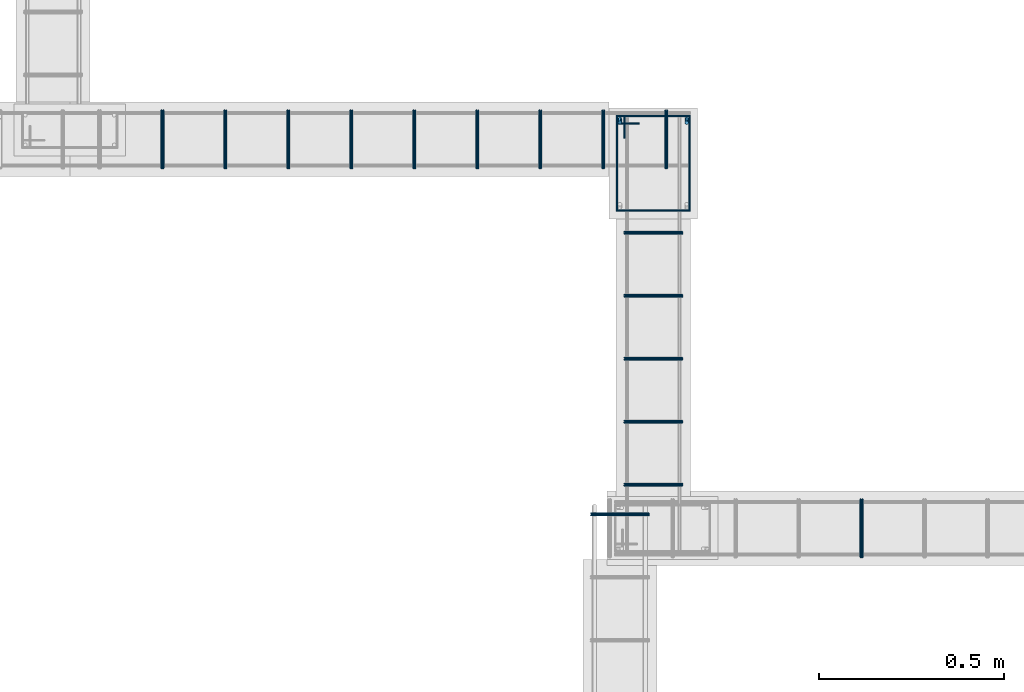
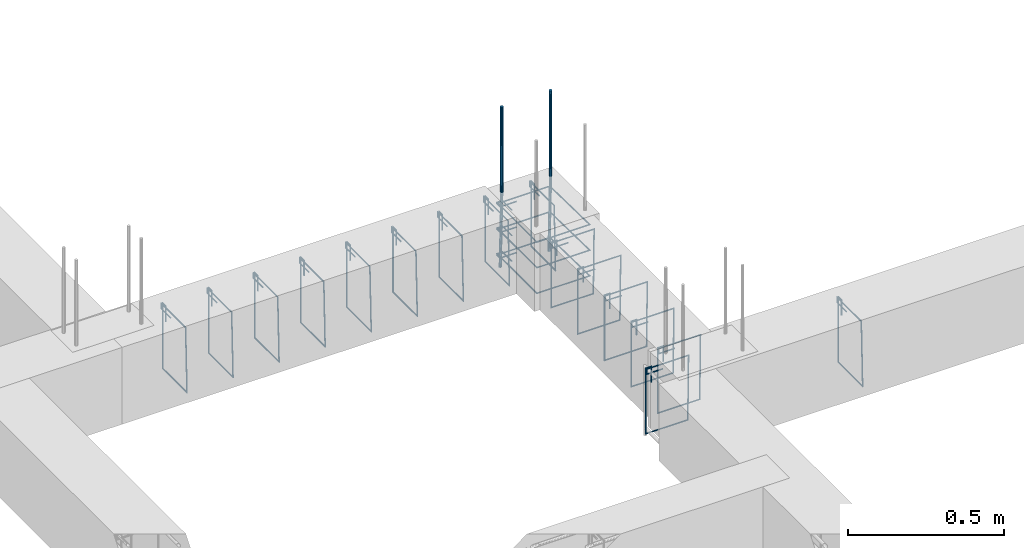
# One storey, part 78 of 150: 21 reinforcing bars.
"""IFC4 building model written with IfcOpenShell, lengths in centimetres."""

from ifc_helpers import new_model, entity, si_unit, derived_unit, frame, origin_with_axes, place, context, project, spatial, source, transform, mapped, element, save


model = new_model("IFC4")

# Units and contexts
model_context = context("Model", 3, precision=1e-05, world=origin_with_axes(), identifier="Body")
ifc_project = project(units=[si_unit("LENGTHUNIT", "METRE", prefix="CENTI"), si_unit("VOLUMEUNIT", "CUBIC_METRE"), si_unit("AREAUNIT", "SQUARE_METRE"), si_unit("POWERUNIT", "WATT"), si_unit("LUMINOUSFLUXUNIT", "LUMEN"), si_unit("ELECTRICCURRENTUNIT", "AMPERE"), si_unit("PRESSUREUNIT", "PASCAL", prefix="KILO"), si_unit("MASSUNIT", "GRAM", prefix="KILO"), si_unit("PLANEANGLEUNIT", "RADIAN"), derived_unit("VOLUMETRICFLOWRATEUNIT", [(si_unit("LENGTHUNIT", "METRE"), 3), (si_unit("TIMEUNIT", "SECOND"), -1)])], contexts=[model_context])

# Site, building, storey
site_placement = place(None, frame((-4000.0, 0.0, 0.0), z_axis=(0.0, 0.0, 1.0), x_axis=(1.0, 0.0, 0.0)))
site = spatial("IfcSite", under=ifc_project, at=site_placement, Name="PADRÃO")
building_placement = place(site_placement, frame((0.0, 0.0, -14.0)))
building = spatial("IfcBuilding", under=site, at=building_placement, Name="CRECHE PRÉ-ESCOLA TIPO 2")
placement = place(building_placement, origin_with_axes())
storey_placement = place(placement, frame((0.0, 0.0, 30.0), z_axis=(0.0, 0.0, 1.0), x_axis=(1.0, 0.0, 0.0)))
storey = spatial("IfcBuildingStorey", under=building, at=storey_placement, Name="VIGA BALDRAME", CompositionType="ELEMENT", Elevation=16.0)

# Reinforcing bars
shared_shape_1 = source(origin_with_axes(), model_context, "Body", "AdvancedSweptSolid", [
    entity("IfcSweptDiskSolid", entity("IfcCompositeCurve", [entity("IfcCompositeCurveSegment", "CONTINUOUS", True, entity("IfcPolyline", [entity("IfcCartesianPoint", [4.25, 21.75, 0.0]), entity("IfcCartesianPoint", [4.25, 27.75, 0.0])])), entity("IfcCompositeCurveSegment", "CONTINUOUS", True, entity("IfcPolyline", [entity("IfcCartesianPoint", [4.25, 27.75, 0.0]), entity("IfcCartesianPoint", [2.25, 27.75, 0.0])])), entity("IfcCompositeCurveSegment", "CONTINUOUS", True, entity("IfcPolyline", [entity("IfcCartesianPoint", [2.25, 27.75, 0.0]), entity("IfcCartesianPoint", [2.25, 2.25, 0.0])])), entity("IfcCompositeCurveSegment", "CONTINUOUS", True, entity("IfcPolyline", [entity("IfcCartesianPoint", [2.25, 2.25, 0.0]), entity("IfcCartesianPoint", [21.75, 2.25, 0.0])])), entity("IfcCompositeCurveSegment", "CONTINUOUS", True, entity("IfcPolyline", [entity("IfcCartesianPoint", [21.75, 2.25, 0.0]), entity("IfcCartesianPoint", [21.75, 27.75, -0.5])])), entity("IfcCompositeCurveSegment", "CONTINUOUS", True, entity("IfcPolyline", [entity("IfcCartesianPoint", [21.75, 27.75, -0.5]), entity("IfcCartesianPoint", [2.25, 27.75, -0.5])])), entity("IfcCompositeCurveSegment", "CONTINUOUS", True, entity("IfcPolyline", [entity("IfcCartesianPoint", [2.25, 27.75, -0.5]), entity("IfcCartesianPoint", [2.25, 25.75, -0.5])])), entity("IfcCompositeCurveSegment", "CONTINUOUS", True, entity("IfcPolyline", [entity("IfcCartesianPoint", [2.25, 25.75, -0.5]), entity("IfcCartesianPoint", [8.25, 25.75, -0.5])]))], False), 0.25),
])
for number, where, z_axis, x_axis, name in (
    (1, (3133.02, 1898.52, -25.0), (0.0, 0.0, 1.0), (1.0, 0.0, 0.0), "P92 - Estribo"),
    (2, (3133.02, 1898.52, -15.0), (0.0, 0.0, 1.0), (1.0, 0.0, 0.0), "P92 - Estribo"),
    (3, (3133.02, 1898.52, -5.0), (0.0, 0.0, 1.0), (1.0, 0.0, 0.0), "P92 - Estribo"),
):
    element("IfcReinforcingBar", number, at=place(storey_placement, frame(where, z_axis=z_axis, x_axis=x_axis)), inside=storey, Name=name, BarLength=0.0, CrossSectionArea=1.9634954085e-05, NominalDiameter=0.5, PredefinedType="MAIN", context=model_context, shape_type="MappedRepresentation", body=[
        mapped(shared_shape_1, transform((0.0, 0.0, 0.0), scale=1.0)),
    ])
shared_shape_2 = source(origin_with_axes(), model_context, "Body", "AdvancedSweptSolid", [
    entity("IfcSweptDiskSolid", entity("IfcCompositeCurve", [entity("IfcCompositeCurveSegment", "CONTINUOUS", True, entity("IfcPolyline", [entity("IfcCartesianPoint", [2.0, -6.0, 0.0]), entity("IfcCartesianPoint", [2.0, 0.0, 0.0])])), entity("IfcCompositeCurveSegment", "CONTINUOUS", True, entity("IfcPolyline", [entity("IfcCartesianPoint", [2.0, 0.0, 0.0]), entity("IfcCartesianPoint", [0.0, 0.0, 0.0])])), entity("IfcCompositeCurveSegment", "CONTINUOUS", True, entity("IfcPolyline", [entity("IfcCartesianPoint", [0.0, 0.0, 0.0]), entity("IfcCartesianPoint", [0.0, -25.5, 0.0])])), entity("IfcCompositeCurveSegment", "CONTINUOUS", True, entity("IfcPolyline", [entity("IfcCartesianPoint", [0.0, -25.5, 0.0]), entity("IfcCartesianPoint", [15.5, -25.5, 0.0])])), entity("IfcCompositeCurveSegment", "CONTINUOUS", True, entity("IfcPolyline", [entity("IfcCartesianPoint", [15.5, -25.5, 0.0]), entity("IfcCartesianPoint", [15.5, 0.0, 0.5])])), entity("IfcCompositeCurveSegment", "CONTINUOUS", True, entity("IfcPolyline", [entity("IfcCartesianPoint", [15.5, 0.0, 0.5]), entity("IfcCartesianPoint", [0.0, 0.0, 0.5])])), entity("IfcCompositeCurveSegment", "CONTINUOUS", True, entity("IfcPolyline", [entity("IfcCartesianPoint", [0.0, 0.0, 0.5]), entity("IfcCartesianPoint", [0.0, -2.0, 0.5])])), entity("IfcCompositeCurveSegment", "CONTINUOUS", True, entity("IfcPolyline", [entity("IfcCartesianPoint", [0.0, -2.0, 0.5]), entity("IfcCartesianPoint", [6.0, -2.0, 0.5])]))], False), 0.25),
])
reinforcing_bar_1_placement = place(storey_placement, frame((3201.5, 1822.77, -2.25), z_axis=(-1.0, 0.0, 0.0), x_axis=(0.0, -1.0, 0.0)))
element("IfcReinforcingBar", 4, at=reinforcing_bar_1_placement, inside=storey, Name="V131 - Estribo", BarLength=0.0, CrossSectionArea=1.9634954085e-05, NominalDiameter=0.5, PredefinedType="MAIN", context=model_context, shape_type="MappedRepresentation", body=[
    mapped(shared_shape_2, transform((0.0, 0.0, 0.0), scale=1.0)),
])
shared_shape_3 = source(origin_with_axes(), model_context, "Body", "AdvancedSweptSolid", [
    entity("IfcSweptDiskSolid", entity("IfcCompositeCurve", [entity("IfcCompositeCurveSegment", "CONTINUOUS", True, entity("IfcPolyline", [entity("IfcCartesianPoint", [2.0, -6.0, 0.0]), entity("IfcCartesianPoint", [2.0, 0.0, 0.0])])), entity("IfcCompositeCurveSegment", "CONTINUOUS", True, entity("IfcPolyline", [entity("IfcCartesianPoint", [2.0, 0.0, 0.0]), entity("IfcCartesianPoint", [0.0, 0.0, 0.0])])), entity("IfcCompositeCurveSegment", "CONTINUOUS", True, entity("IfcPolyline", [entity("IfcCartesianPoint", [0.0, 0.0, 0.0]), entity("IfcCartesianPoint", [0.0, -25.5, 0.0])])), entity("IfcCompositeCurveSegment", "CONTINUOUS", True, entity("IfcPolyline", [entity("IfcCartesianPoint", [0.0, -25.5, 0.0]), entity("IfcCartesianPoint", [15.5, -25.5, 0.0])])), entity("IfcCompositeCurveSegment", "CONTINUOUS", True, entity("IfcPolyline", [entity("IfcCartesianPoint", [15.5, -25.5, 0.0]), entity("IfcCartesianPoint", [15.5, 0.0, 0.5])])), entity("IfcCompositeCurveSegment", "CONTINUOUS", True, entity("IfcPolyline", [entity("IfcCartesianPoint", [15.5, 0.0, 0.5]), entity("IfcCartesianPoint", [0.0, 0.0, 0.5])])), entity("IfcCompositeCurveSegment", "CONTINUOUS", True, entity("IfcPolyline", [entity("IfcCartesianPoint", [0.0, 0.0, 0.5]), entity("IfcCartesianPoint", [0.0, -2.0, 0.5])])), entity("IfcCompositeCurveSegment", "CONTINUOUS", True, entity("IfcPolyline", [entity("IfcCartesianPoint", [0.0, -2.0, 0.5]), entity("IfcCartesianPoint", [6.0, -2.0, 0.5])]))], False), 0.25),
])
for number, where, z_axis, x_axis, name in (
    (5, (3137.27, 1827.02, -2.25), (0.0, -1.0, 0.0), (1.0, 0.0, 0.0), "V217 - Estribo"),
    (6, (3137.27, 1844.02, -2.25), (0.0, -1.0, 0.0), (1.0, 0.0, 0.0), "V217 - Estribo"),
    (7, (3137.27, 1861.02, -2.25), (0.0, -1.0, 0.0), (1.0, 0.0, 0.0), "V217 - Estribo"),
    (8, (3137.27, 1878.02, -2.25), (0.0, -1.0, 0.0), (1.0, 0.0, 0.0), "V217 - Estribo"),
    (9, (3137.27, 1895.02, -2.25), (0.0, -1.0, 0.0), (1.0, 0.0, 0.0), "V217 - Estribo"),
):
    element("IfcReinforcingBar", number, at=place(storey_placement, frame(where, z_axis=z_axis, x_axis=x_axis)), inside=storey, Name=name, BarLength=0.0, CrossSectionArea=1.9634954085e-05, NominalDiameter=0.5, PredefinedType="MAIN", context=model_context, shape_type="MappedRepresentation", body=[
        mapped(shared_shape_3, transform((0.0, 0.0, 0.0), scale=1.0)),
    ])
shared_shape_4 = source(origin_with_axes(), model_context, "Body", "AdvancedSweptSolid", [
    entity("IfcSweptDiskSolid", entity("IfcCompositeCurve", [entity("IfcCompositeCurveSegment", "CONTINUOUS", True, entity("IfcPolyline", [entity("IfcCartesianPoint", [2.0, -6.0, 0.0]), entity("IfcCartesianPoint", [2.0, 0.0, 0.0])])), entity("IfcCompositeCurveSegment", "CONTINUOUS", True, entity("IfcPolyline", [entity("IfcCartesianPoint", [2.0, 0.0, 0.0]), entity("IfcCartesianPoint", [0.0, 0.0, 0.0])])), entity("IfcCompositeCurveSegment", "CONTINUOUS", True, entity("IfcPolyline", [entity("IfcCartesianPoint", [0.0, 0.0, 0.0]), entity("IfcCartesianPoint", [0.0, -25.5, 0.0])])), entity("IfcCompositeCurveSegment", "CONTINUOUS", True, entity("IfcPolyline", [entity("IfcCartesianPoint", [0.0, -25.5, 0.0]), entity("IfcCartesianPoint", [15.5, -25.5, 0.0])])), entity("IfcCompositeCurveSegment", "CONTINUOUS", True, entity("IfcPolyline", [entity("IfcCartesianPoint", [15.5, -25.5, 0.0]), entity("IfcCartesianPoint", [15.5, 0.0, 0.5])])), entity("IfcCompositeCurveSegment", "CONTINUOUS", True, entity("IfcPolyline", [entity("IfcCartesianPoint", [15.5, 0.0, 0.5]), entity("IfcCartesianPoint", [0.0, 0.0, 0.5])])), entity("IfcCompositeCurveSegment", "CONTINUOUS", True, entity("IfcPolyline", [entity("IfcCartesianPoint", [0.0, 0.0, 0.5]), entity("IfcCartesianPoint", [0.0, -2.0, 0.5])])), entity("IfcCompositeCurveSegment", "CONTINUOUS", True, entity("IfcPolyline", [entity("IfcCartesianPoint", [0.0, -2.0, 0.5]), entity("IfcCartesianPoint", [6.0, -2.0, 0.5])]))], False), 0.25),
])
reinforcing_bar_2_placement = place(storey_placement, frame((3128.25, 1819.02, -2.25), z_axis=(0.0, -1.0, 0.0), x_axis=(1.0, 0.0, 0.0)))
element("IfcReinforcingBar", 10, at=reinforcing_bar_2_placement, inside=storey, Name="V216 - Estribo", BarLength=0.0, CrossSectionArea=1.9634954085e-05, NominalDiameter=0.5, PredefinedType="MAIN", context=model_context, shape_type="MappedRepresentation", body=[
    mapped(shared_shape_4, transform((0.0, 0.0, 0.0), scale=1.0)),
])
shared_shape_5 = source(origin_with_axes(), model_context, "Body", "AdvancedSweptSolid", [
    entity("IfcSweptDiskSolid", entity("IfcCompositeCurve", [entity("IfcCompositeCurveSegment", "CONTINUOUS", True, entity("IfcPolyline", [entity("IfcCartesianPoint", [2.0, -6.0, 0.0]), entity("IfcCartesianPoint", [2.0, 0.0, 0.0])])), entity("IfcCompositeCurveSegment", "CONTINUOUS", True, entity("IfcPolyline", [entity("IfcCartesianPoint", [2.0, 0.0, 0.0]), entity("IfcCartesianPoint", [0.0, 0.0, 0.0])])), entity("IfcCompositeCurveSegment", "CONTINUOUS", True, entity("IfcPolyline", [entity("IfcCartesianPoint", [0.0, 0.0, 0.0]), entity("IfcCartesianPoint", [0.0, -25.5, 0.0])])), entity("IfcCompositeCurveSegment", "CONTINUOUS", True, entity("IfcPolyline", [entity("IfcCartesianPoint", [0.0, -25.5, 0.0]), entity("IfcCartesianPoint", [15.5, -25.5, 0.0])])), entity("IfcCompositeCurveSegment", "CONTINUOUS", True, entity("IfcPolyline", [entity("IfcCartesianPoint", [15.5, -25.5, 0.0]), entity("IfcCartesianPoint", [15.5, 0.0, 0.5])])), entity("IfcCompositeCurveSegment", "CONTINUOUS", True, entity("IfcPolyline", [entity("IfcCartesianPoint", [15.5, 0.0, 0.5]), entity("IfcCartesianPoint", [0.0, 0.0, 0.5])])), entity("IfcCompositeCurveSegment", "CONTINUOUS", True, entity("IfcPolyline", [entity("IfcCartesianPoint", [0.0, 0.0, 0.5]), entity("IfcCartesianPoint", [0.0, -2.0, 0.5])])), entity("IfcCompositeCurveSegment", "CONTINUOUS", True, entity("IfcPolyline", [entity("IfcCartesianPoint", [0.0, -2.0, 0.5]), entity("IfcCartesianPoint", [6.0, -2.0, 0.5])]))], False), 0.25),
])
for number, where, z_axis, x_axis, name in (
    (11, (3080.76, 1927.77, -2.25), (-1.0, 0.0, 0.0), (0.0, -1.0, 0.0), "V128 - Estribo"),
    (12, (3097.76, 1927.77, -2.25), (-1.0, 0.0, 0.0), (0.0, -1.0, 0.0), "V128 - Estribo"),
    (13, (3114.76, 1927.77, -2.25), (-1.0, 0.0, 0.0), (0.0, -1.0, 0.0), "V128 - Estribo"),
    (14, (3131.76, 1927.77, -2.25), (-1.0, 0.0, 0.0), (0.0, -1.0, 0.0), "V128 - Estribo"),
    (15, (3148.76, 1927.77, -2.25), (-1.0, 0.0, 0.0), (0.0, -1.0, 0.0), "V128 - Estribo"),
    (16, (3012.76, 1927.77, -2.25), (-1.0, 0.0, 0.0), (0.0, -1.0, 0.0), "V128 - Estribo"),
    (17, (3029.76, 1927.77, -2.25), (-1.0, 0.0, 0.0), (0.0, -1.0, 0.0), "V128 - Estribo"),
    (18, (3046.76, 1927.77, -2.25), (-1.0, 0.0, 0.0), (0.0, -1.0, 0.0), "V128 - Estribo"),
    (19, (3063.76, 1927.77, -2.25), (-1.0, 0.0, 0.0), (0.0, -1.0, 0.0), "V128 - Estribo"),
):
    element("IfcReinforcingBar", number, at=place(storey_placement, frame(where, z_axis=z_axis, x_axis=x_axis)), inside=storey, Name=name, BarLength=0.0, CrossSectionArea=1.9634954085e-05, NominalDiameter=0.5, PredefinedType="MAIN", context=model_context, shape_type="MappedRepresentation", body=[
        mapped(shared_shape_5, transform((0.0, 0.0, 0.0), scale=1.0)),
    ])
for number, where, z_axis, x_axis, name in (
    (20, (3136.02, 1925.01986122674, 33.3573001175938), (0.0, 0.0, 1.0), (1.0, 0.0, 0.0), "P92 - Longitudinal"),
    (21, (3154.02, 1925.01986122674, 33.3573001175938), (0.0, 0.0, 1.0), (1.0, 0.0, 0.0), "P92 - Longitudinal"),
):
    element("IfcReinforcingBar", number, at=place(storey_placement, frame(where, z_axis=z_axis, x_axis=x_axis)), inside=storey, Name=name, BarLength=0.0, CrossSectionArea=7.853981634e-05, NominalDiameter=1.0, PredefinedType="MAIN", context=model_context, shape_type="AdvancedSweptSolid", body=[
        entity("IfcSweptDiskSolid", entity("IfcCompositeCurve", [entity("IfcCompositeCurveSegment", "CONTINUOUS", True, entity("IfcPolyline", [entity("IfcCartesianPoint", [0.0, 0.50013877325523, -63.3573001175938]), entity("IfcCartesianPoint", [0.0, -0.49986122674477, -33.3573001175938])])), entity("IfcCompositeCurveSegment", "CONTINUOUS", True, entity("IfcPolyline", [entity("IfcCartesianPoint", [0.0, -0.49986122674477, -33.3573001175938]), entity("IfcCartesianPoint", [0.0, -0.49986122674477, 0.0])]))], False), 0.5),
    ])

save(model, "model.ifc")
